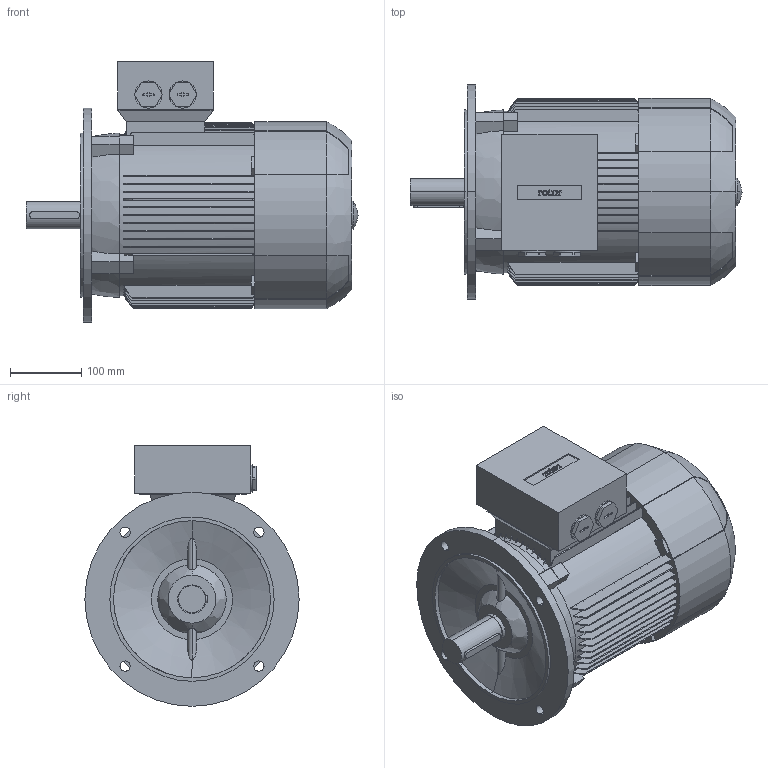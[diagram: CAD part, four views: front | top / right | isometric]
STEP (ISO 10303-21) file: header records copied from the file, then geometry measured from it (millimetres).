
FILE_DESCRIPTION (( 'STEP AP214' ), '1' );
FILE_NAME ('6RN132S04E20 IM3001.STEP', '2014-09-15T11:13:22', ( 'rbc_ict' ), ( 'REGAL' ), 'SwSTEP 2.0', 'SolidWorks 2012', '' );
FILE_SCHEMA (( 'AUTOMOTIVE_DESIGN' ));
Length unit declared in the file: millimetre
Products named in the file (1): 6RN132S04E20 IM3001
Bounding box: 465 x 300 x 365 mm (x, y, z)
Volume: 18919380.9 mm3; surface area: 767403.2 mm2
Topology: 1 solids, 1 shells, 608 faces, 1728 edges, 1141 vertices
Faces by surface type: plane 334, bspline 155, cylinder 113, cone 6
Entity records: 24636 total; most frequent: CARTESIAN_POINT 9849, ORIENTED_EDGE 3452, DIRECTION 2565, EDGE_CURVE 1726, VERTEX_POINT 1141, VECTOR 947, LINE 947, AXIS2_PLACEMENT_3D 809
